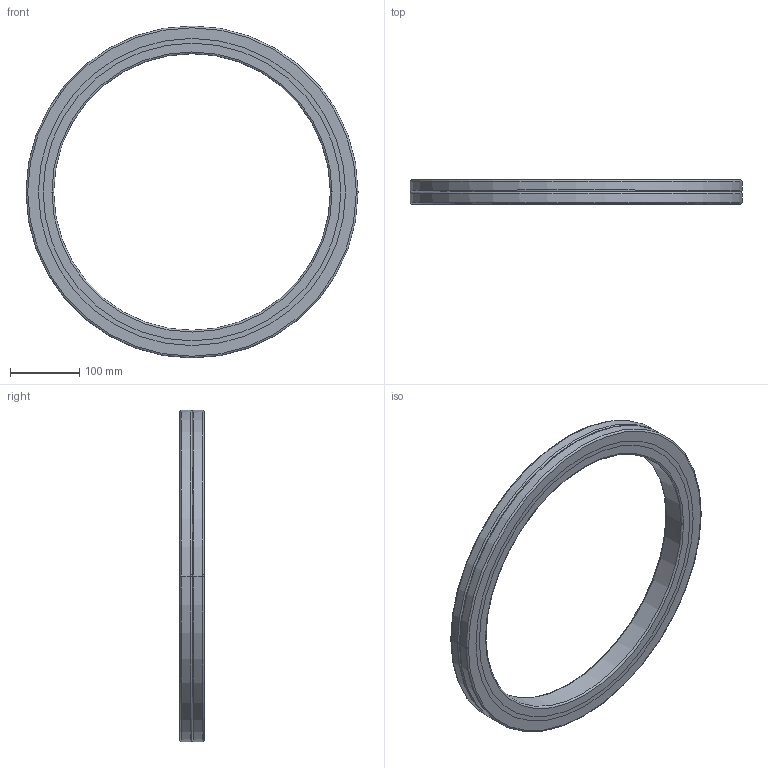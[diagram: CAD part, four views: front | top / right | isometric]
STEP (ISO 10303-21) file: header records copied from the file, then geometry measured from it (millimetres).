
FILE_DESCRIPTION(('no description'),'unknown implementation level');
FILE_NAME('CRBA40035_50.stp',' ',('HIWIN GmbH'),('CADClick - KiM GmbH - www.kimweb.de'),'unknown preprocess','ACIS','unknown authorization');
FILE_SCHEMA(('automotive_design'));
Length unit declared in the file: millimetre
Products named in the file (5): CRBA40035_1; CRBA40035_2; CRBA40035_3; CRBA40035_4; CRBA40035
Bounding box: 480 x 35 x 480 mm (x, y, z)
Volume: 1643574.4 mm3; surface area: 378981.5 mm2
Topology: 5 solids, 5 shells, 54 faces, 120 edges, 76 vertices
Faces by surface type: torus 24, cylinder 20, plane 10
Entity records: 3096 total; most frequent: DIRECTION 338, STYLED_ITEM 255, PRESENTATION_STYLE_ASSIGNMENT 255, CARTESIAN_POINT 255, COLOUR_RGB 255, ORIENTED_EDGE 240, AXIS2_PLACEMENT_3D 159, EDGE_CURVE 120
